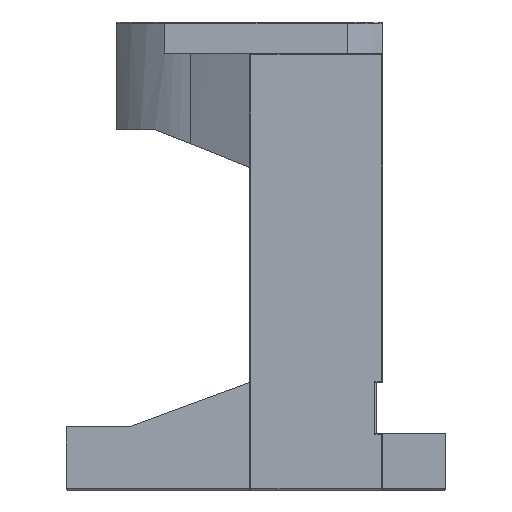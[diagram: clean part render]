
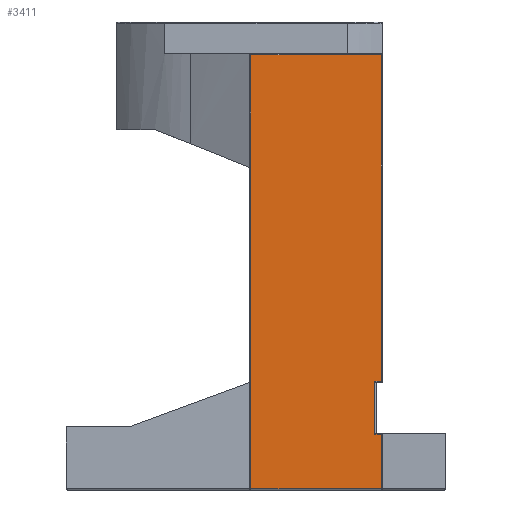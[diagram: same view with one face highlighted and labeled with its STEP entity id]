
A CAD part, left-side view. The second image highlights one B-rep face of the part: STEP entity #3411.
In plain terms, the highlighted planar face has unit normal (-1, 0, 0).
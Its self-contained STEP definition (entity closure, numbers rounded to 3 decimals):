
#260 = VERTEX_POINT ( 'NONE', #2360 ) ;
#440 = VERTEX_POINT ( 'NONE', #4751 ) ;
#456 = LINE ( 'NONE', #4796, #3762 ) ;
#534 = EDGE_CURVE ( 'NONE', #3060, #993, #3296, .T. ) ;
#554 = VECTOR ( 'NONE', #4669, 1000. ) ;
#651 = VERTEX_POINT ( 'NONE', #999 ) ;
#669 = EDGE_CURVE ( 'NONE', #3364, #651, #456, .T. ) ;
#673 = CARTESIAN_POINT ( 'NONE',  ( -32.5, -20., -4.8 ) ) ;
#699 = EDGE_CURVE ( 'NONE', #993, #260, #3633, .T. ) ;
#766 = ORIENTED_EDGE ( 'NONE', *, *, #699, .T. ) ;
#935 = PLANE ( 'NONE',  #992 ) ;
#936 = EDGE_CURVE ( 'NONE', #651, #440, #1401, .T. ) ;
#992 = AXIS2_PLACEMENT_3D ( 'NONE', #997, #4897, #5066 ) ;
#993 = VERTEX_POINT ( 'NONE', #5433 ) ;
#997 = CARTESIAN_POINT ( 'NONE',  ( -32.5, -20., 64. ) ) ;
#999 = CARTESIAN_POINT ( 'NONE',  ( -32.5, -19.8, 12.2 ) ) ;
#1030 = FACE_OUTER_BOUND ( 'NONE', #5248, .T. ) ;
#1261 = VECTOR ( 'NONE', #3462, 1000. ) ;
#1401 = LINE ( 'NONE', #3480, #1261 ) ;
#1488 = EDGE_CURVE ( 'NONE', #260, #3364, #4418, .T. ) ;
#1597 = CARTESIAN_POINT ( 'NONE',  ( -32.5, -19.8, -4.8 ) ) ;
#1779 = VECTOR ( 'NONE', #2867, 1000. ) ;
#1956 = ORIENTED_EDGE ( 'NONE', *, *, #936, .T. ) ;
#2010 = VECTOR ( 'NONE', #5370, 1000. ) ;
#2077 = ORIENTED_EDGE ( 'NONE', *, *, #3283, .T. ) ;
#2117 = LINE ( 'NONE', #3381, #2260 ) ;
#2205 = CARTESIAN_POINT ( 'NONE',  ( -32.5, -19.8, 4. ) ) ;
#2229 = DIRECTION ( 'NONE',  ( 0., 0., 1. ) ) ;
#2260 = VECTOR ( 'NONE', #2982, 1000. ) ;
#2278 = CARTESIAN_POINT ( 'NONE',  ( -32.5, 0.8, -4.8 ) ) ;
#2360 = CARTESIAN_POINT ( 'NONE',  ( -32.5, -18.8, 3.8 ) ) ;
#2649 = VECTOR ( 'NONE', #3852, 1000. ) ;
#2664 = CARTESIAN_POINT ( 'NONE',  ( -32.5, 0.8, 63.8 ) ) ;
#2755 = LINE ( 'NONE', #4684, #554 ) ;
#2764 = VERTEX_POINT ( 'NONE', #2664 ) ;
#2841 = ORIENTED_EDGE ( 'NONE', *, *, #669, .T. ) ;
#2867 = DIRECTION ( 'NONE',  ( 0., -1., 0. ) ) ;
#2982 = DIRECTION ( 'NONE',  ( 0., 0., -1. ) ) ;
#3060 = VERTEX_POINT ( 'NONE', #1597 ) ;
#3109 = ORIENTED_EDGE ( 'NONE', *, *, #5386, .T. ) ;
#3283 = EDGE_CURVE ( 'NONE', #440, #2764, #2755, .T. ) ;
#3296 = LINE ( 'NONE', #2205, #4429 ) ;
#3364 = VERTEX_POINT ( 'NONE', #4793 ) ;
#3381 = CARTESIAN_POINT ( 'NONE',  ( -32.5, 0.8, -5. ) ) ;
#3411 = ADVANCED_FACE ( 'NONE', ( #1030 ), #935, .T. ) ;
#3462 = DIRECTION ( 'NONE',  ( 0., 0., 1. ) ) ;
#3480 = CARTESIAN_POINT ( 'NONE',  ( -32.5, -19.8, 64. ) ) ;
#3513 = ORIENTED_EDGE ( 'NONE', *, *, #534, .T. ) ;
#3633 = LINE ( 'NONE', #4806, #2649 ) ;
#3762 = VECTOR ( 'NONE', #5366, 1000. ) ;
#3852 = DIRECTION ( 'NONE',  ( 0., 1., 0. ) ) ;
#4045 = EDGE_CURVE ( 'NONE', #2764, #4630, #2117, .T. ) ;
#4057 = LINE ( 'NONE', #673, #1779 ) ;
#4089 = ORIENTED_EDGE ( 'NONE', *, *, #4045, .T. ) ;
#4356 = ORIENTED_EDGE ( 'NONE', *, *, #1488, .T. ) ;
#4418 = LINE ( 'NONE', #4612, #2010 ) ;
#4429 = VECTOR ( 'NONE', #2229, 1000. ) ;
#4612 = CARTESIAN_POINT ( 'NONE',  ( -32.5, -18.8, 12. ) ) ;
#4630 = VERTEX_POINT ( 'NONE', #2278 ) ;
#4669 = DIRECTION ( 'NONE',  ( 0., 1., 0. ) ) ;
#4684 = CARTESIAN_POINT ( 'NONE',  ( -32.5, -20., 63.8 ) ) ;
#4751 = CARTESIAN_POINT ( 'NONE',  ( -32.5, -19.8, 63.8 ) ) ;
#4793 = CARTESIAN_POINT ( 'NONE',  ( -32.5, -18.8, 12.2 ) ) ;
#4796 = CARTESIAN_POINT ( 'NONE',  ( -32.5, -20., 12.2 ) ) ;
#4806 = CARTESIAN_POINT ( 'NONE',  ( -32.5, -19., 3.8 ) ) ;
#4897 = DIRECTION ( 'NONE',  ( -1., 0., 0. ) ) ;
#5066 = DIRECTION ( 'NONE',  ( 0., 1., 0. ) ) ;
#5248 = EDGE_LOOP ( 'NONE', ( #1956, #2077, #4089, #3109, #3513, #766, #4356, #2841 ) ) ;
#5366 = DIRECTION ( 'NONE',  ( 0., -1., 0. ) ) ;
#5370 = DIRECTION ( 'NONE',  ( 0., 0., 1. ) ) ;
#5386 = EDGE_CURVE ( 'NONE', #4630, #3060, #4057, .T. ) ;
#5433 = CARTESIAN_POINT ( 'NONE',  ( -32.5, -19.8, 3.8 ) ) ;
